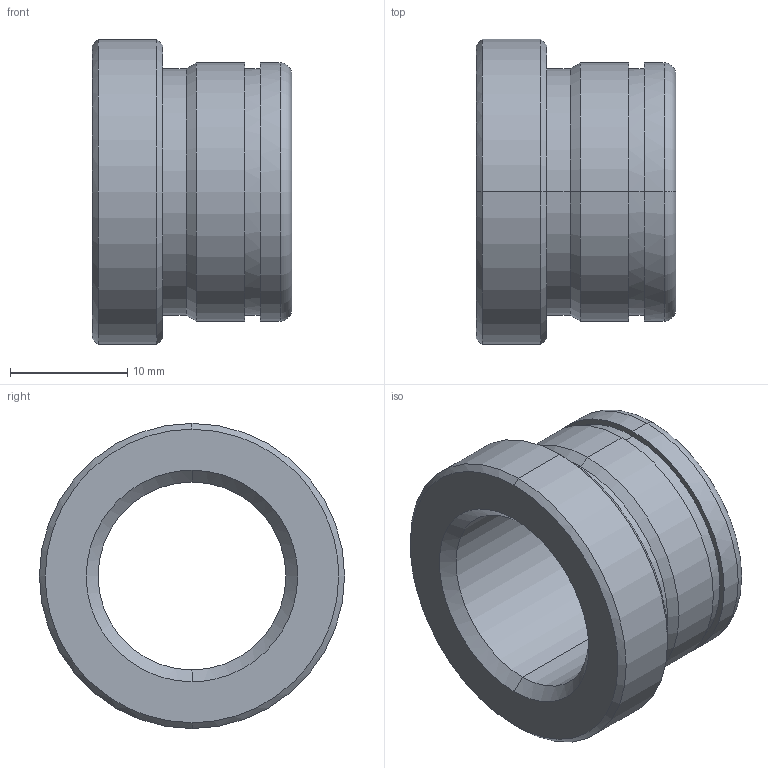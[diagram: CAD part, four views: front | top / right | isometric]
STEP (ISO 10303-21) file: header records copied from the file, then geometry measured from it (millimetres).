
FILE_DESCRIPTION(('CATIA V5 STEP Exchange'),'2;1');
FILE_NAME('C:\Users\Utente\Desktop\IO LAVORO\3D X SITO CF\X SITO\PLASTICA\553\553-16X17.stp','2021-05-21T19:00:14+00:00',('none'),('none'),'CATIA Version 5 Release 20 GA (IN-10)','CATIA V5 STEP AP203','none');
FILE_SCHEMA(('CONFIG_CONTROL_DESIGN'));
Length unit declared in the file: millimetre
Products named in the file (1): 553-16X17
Bounding box: 17 x 26 x 26 mm (x, y, z)
Volume: 3736.6 mm3; surface area: 2725.1 mm2
Topology: 1 solids, 1 shells, 29 faces, 92 edges, 68 vertices
Faces by surface type: cylinder 12, cone 8, plane 5, torus 4
Entity records: 1222 total; most frequent: CARTESIAN_POINT 368, ORIENTED_EDGE 184, DIRECTION 136, EDGE_CURVE 92, AXIS2_PLACEMENT_3D 88, VERTEX_POINT 68, CIRCLE 58, EDGE_LOOP 34
